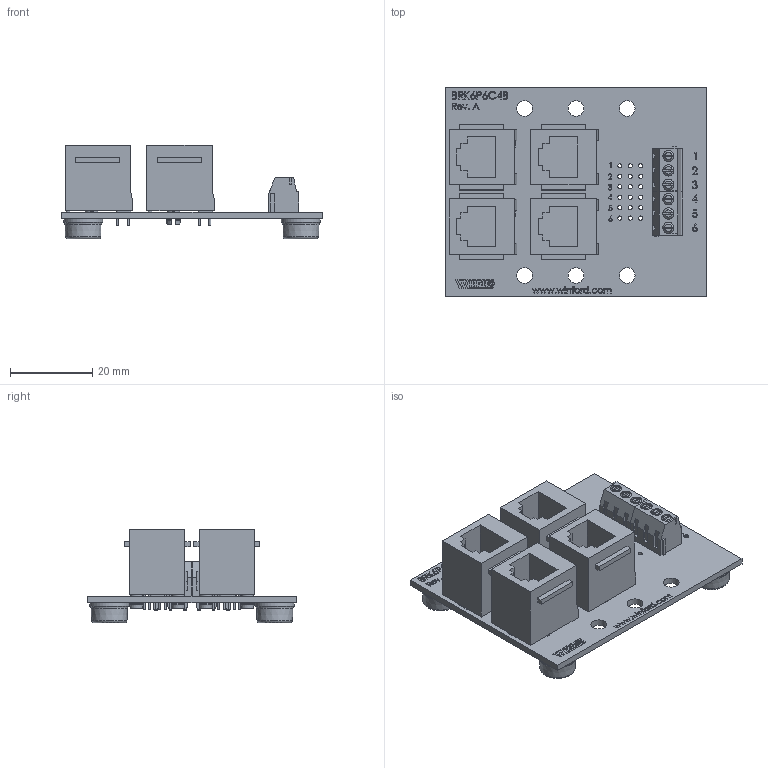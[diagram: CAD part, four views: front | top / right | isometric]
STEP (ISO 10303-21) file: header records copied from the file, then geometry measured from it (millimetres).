
FILE_DESCRIPTION (( 'STEP AP214' ), '1' );
FILE_NAME ('brk6p6c4b-s-ft_rev_a.stp', '2018-07-22T23:51:18', ( '' ), ( '' ), 'SwSTEP 2.0', 'SolidWorks 2017', '' );
FILE_SCHEMA (( 'AUTOMOTIVE_DESIGN' ));
Length unit declared in the file: inch
Products named in the file (5): Modular Jack vertical 6; RubberFoot; brk6p6c4b-s-ft_rev_a; BRK6P6C4B Board; Screw Terminal 3
Assembly tree (11 placements, depth 2):
  brk6p6c4b-s-ft_rev_a
    BRK6P6C4B Board
    Modular Jack vertical 6  x4
    RubberFoot  x4
    Screw Terminal 3  x2
Bounding box: 63.59 x 50.88 x 22.79 mm (x, y, z)
Volume: 15408.1 mm3; surface area: 17978.7 mm2
Topology: 9 solids, 17 shells, 1599 faces, 4204 edges, 2798 vertices
Faces by surface type: plane 1087, bspline 246, cylinder 210, cone 42, torus 14
Full cylindrical faces by diameter (mm): 0.5 x24, 0.761 x20, 1.018 x18, 1.094 x6, 1.402 x6, 1.606 x2, 2 x12, 2.68 x6, 2.75 x6, 3.1 x8, 3.816 x6, 9.525 x4
Entity records: 57650 total; most frequent: CARTESIAN_POINT 20729, ORIENTED_EDGE 5601, DIRECTION 4256, EDGE_CURVE 2805, LINE 2022, VECTOR 2022, VERTEX_POINT 1919, EDGE_LOOP 1416
